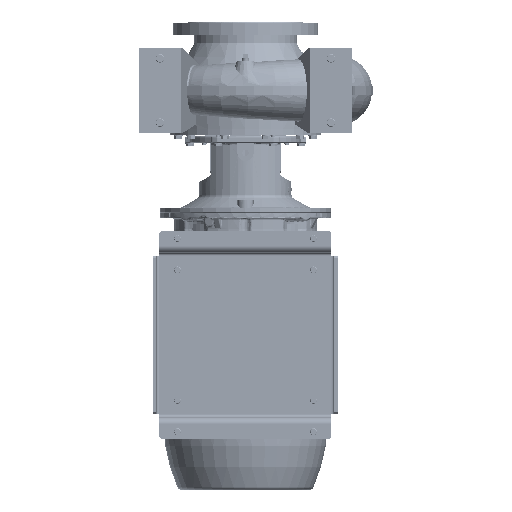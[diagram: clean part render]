
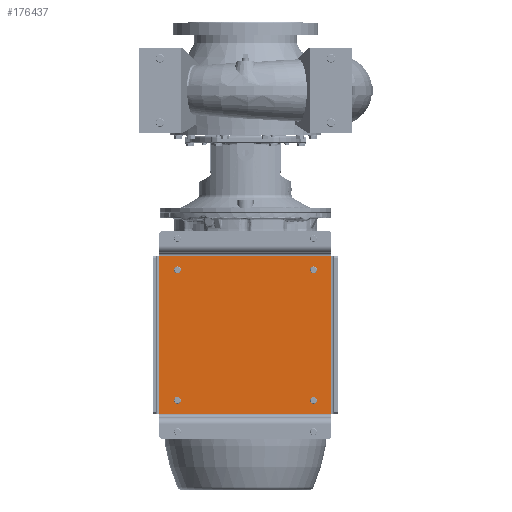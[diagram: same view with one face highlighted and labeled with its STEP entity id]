
A CAD part, front view. The second image highlights one B-rep face of the part: STEP entity #176437.
In plain terms, the highlighted planar face has unit normal (0, -1, 0).
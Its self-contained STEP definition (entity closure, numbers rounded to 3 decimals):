
#500 = VERTEX_POINT ( 'NONE', #146297 ) ;
#4031 = CIRCLE ( 'NONE', #187236, 8. ) ;
#5198 = VERTEX_POINT ( 'NONE', #273974 ) ;
#7053 = FACE_BOUND ( 'NONE', #274932, .T. ) ;
#8460 = DIRECTION ( 'NONE',  ( 0., 0., -1. ) ) ;
#15353 = AXIS2_PLACEMENT_3D ( 'NONE', #134538, #226593, #19801 ) ;
#17415 = VECTOR ( 'NONE', #71395, 1000. ) ;
#19801 = DIRECTION ( 'NONE',  ( 0., 0., -1. ) ) ;
#25271 = FACE_OUTER_BOUND ( 'NONE', #289523, .T. ) ;
#25662 = EDGE_CURVE ( 'NONE', #205653, #109764, #68366, .T. ) ;
#25719 = DIRECTION ( 'NONE',  ( 0., 0., -1. ) ) ;
#27328 = VECTOR ( 'NONE', #79196, 1000. ) ;
#27929 = LINE ( 'NONE', #188008, #27328 ) ;
#31117 = EDGE_CURVE ( 'NONE', #229028, #156281, #47560, .T. ) ;
#38588 = DIRECTION ( 'NONE',  ( 0., 0., -1. ) ) ;
#39617 = CARTESIAN_POINT ( 'NONE',  ( 91.5, 71., -58. ) ) ;
#43307 = VERTEX_POINT ( 'NONE', #211348 ) ;
#43632 = VECTOR ( 'NONE', #165282, 1000. ) ;
#43830 = EDGE_CURVE ( 'NONE', #156281, #172566, #165020, .T. ) ;
#47560 = LINE ( 'NONE', #233182, #43632 ) ;
#54526 = EDGE_CURVE ( 'NONE', #172566, #295370, #100653, .T. ) ;
#55267 = DIRECTION ( 'NONE',  ( 0., 1., 0. ) ) ;
#56217 = EDGE_CURVE ( 'NONE', #269859, #5198, #87386, .T. ) ;
#58344 = DIRECTION ( 'NONE',  ( 0., 0., 1. ) ) ;
#67820 = CARTESIAN_POINT ( 'NONE',  ( 396.5, 71., -368. ) ) ;
#68366 = CIRCLE ( 'NONE', #15353, 8. ) ;
#70545 = PLANE ( 'NONE',  #87336 ) ;
#71395 = DIRECTION ( 'NONE',  ( 1., 0., 0. ) ) ;
#71561 = CIRCLE ( 'NONE', #143999, 8. ) ;
#71700 = ORIENTED_EDGE ( 'NONE', *, *, #117328, .T. ) ;
#73585 = CARTESIAN_POINT ( 'NONE',  ( 396.5, 71., -58. ) ) ;
#75072 = DIRECTION ( 'NONE',  ( 0., 0., -1. ) ) ;
#78015 = CARTESIAN_POINT ( 'NONE',  ( 429., 71., -16. ) ) ;
#78737 = CARTESIAN_POINT ( 'NONE',  ( 59., 71., -16. ) ) ;
#79196 = DIRECTION ( 'NONE',  ( -1., 0., 0. ) ) ;
#80657 = ORIENTED_EDGE ( 'NONE', *, *, #157569, .T. ) ;
#86650 = CARTESIAN_POINT ( 'NONE',  ( 91.5, 71., -368. ) ) ;
#87336 = AXIS2_PLACEMENT_3D ( 'NONE', #260684, #232061, #256216 ) ;
#87386 = CIRCLE ( 'NONE', #203128, 8. ) ;
#89084 = CARTESIAN_POINT ( 'NONE',  ( 396.5, 71., -66. ) ) ;
#92219 = CARTESIAN_POINT ( 'NONE',  ( 396.5, 71., -384. ) ) ;
#97587 = CARTESIAN_POINT ( 'NONE',  ( 396.5, 71., -58. ) ) ;
#100653 = LINE ( 'NONE', #78015, #289493 ) ;
#108107 = AXIS2_PLACEMENT_3D ( 'NONE', #221003, #175771, #174302 ) ;
#109764 = VERTEX_POINT ( 'NONE', #92219 ) ;
#116320 = CARTESIAN_POINT ( 'NONE',  ( 91.5, 71., -58. ) ) ;
#116758 = AXIS2_PLACEMENT_3D ( 'NONE', #135425, #162519, #228952 ) ;
#117328 = EDGE_CURVE ( 'NONE', #295370, #229028, #27929, .T. ) ;
#117633 = ORIENTED_EDGE ( 'NONE', *, *, #129475, .T. ) ;
#122983 = ORIENTED_EDGE ( 'NONE', *, *, #135414, .T. ) ;
#123035 = EDGE_CURVE ( 'NONE', #109764, #205653, #4031, .T. ) ;
#129475 = EDGE_CURVE ( 'NONE', #5198, #269859, #213012, .T. ) ;
#134538 = CARTESIAN_POINT ( 'NONE',  ( 396.5, 71., -376. ) ) ;
#135414 = EDGE_CURVE ( 'NONE', #251335, #147527, #281747, .T. ) ;
#135425 = CARTESIAN_POINT ( 'NONE',  ( 91.5, 71., -376. ) ) ;
#143302 = EDGE_LOOP ( 'NONE', ( #117633, #240277 ) ) ;
#143999 = AXIS2_PLACEMENT_3D ( 'NONE', #39617, #177005, #269043 ) ;
#144485 = FACE_BOUND ( 'NONE', #143302, .T. ) ;
#146297 = CARTESIAN_POINT ( 'NONE',  ( 91.5, 71., -50. ) ) ;
#146813 = ORIENTED_EDGE ( 'NONE', *, *, #54526, .T. ) ;
#147527 = VERTEX_POINT ( 'NONE', #86650 ) ;
#154038 = CARTESIAN_POINT ( 'NONE',  ( 429., 71., -16. ) ) ;
#156281 = VERTEX_POINT ( 'NONE', #279749 ) ;
#157569 = EDGE_CURVE ( 'NONE', #500, #43307, #71561, .T. ) ;
#160615 = ORIENTED_EDGE ( 'NONE', *, *, #123035, .T. ) ;
#161237 = DIRECTION ( 'NONE',  ( 0., 1., 0. ) ) ;
#162519 = DIRECTION ( 'NONE',  ( 0., 1., 0. ) ) ;
#165020 = LINE ( 'NONE', #278209, #17415 ) ;
#165282 = DIRECTION ( 'NONE',  ( 0., 0., -1. ) ) ;
#165483 = ORIENTED_EDGE ( 'NONE', *, *, #264438, .T. ) ;
#170905 = EDGE_CURVE ( 'NONE', #43307, #500, #190270, .T. ) ;
#172566 = VERTEX_POINT ( 'NONE', #215248 ) ;
#174302 = DIRECTION ( 'NONE',  ( 0., 0., -1. ) ) ;
#174517 = CARTESIAN_POINT ( 'NONE',  ( 396.5, 71., -376. ) ) ;
#175771 = DIRECTION ( 'NONE',  ( 0., 1., 0. ) ) ;
#176437 = ADVANCED_FACE ( 'NONE', ( #25271, #7053, #188313, #186815, #144485 ), #70545, .T. ) ;
#177005 = DIRECTION ( 'NONE',  ( 0., 1., 0. ) ) ;
#186815 = FACE_BOUND ( 'NONE', #252433, .T. ) ;
#187236 = AXIS2_PLACEMENT_3D ( 'NONE', #174517, #248357, #38588 ) ;
#187279 = DIRECTION ( 'NONE',  ( 0., 1., 0. ) ) ;
#188008 = CARTESIAN_POINT ( 'NONE',  ( 59., 71., -16. ) ) ;
#188313 = FACE_BOUND ( 'NONE', #223839, .T. ) ;
#190270 = CIRCLE ( 'NONE', #286773, 8. ) ;
#201677 = ORIENTED_EDGE ( 'NONE', *, *, #25662, .T. ) ;
#203128 = AXIS2_PLACEMENT_3D ( 'NONE', #73585, #161237, #75072 ) ;
#205653 = VERTEX_POINT ( 'NONE', #67820 ) ;
#211348 = CARTESIAN_POINT ( 'NONE',  ( 91.5, 71., -66. ) ) ;
#212225 = ORIENTED_EDGE ( 'NONE', *, *, #31117, .T. ) ;
#213012 = CIRCLE ( 'NONE', #280490, 8. ) ;
#215248 = CARTESIAN_POINT ( 'NONE',  ( 429., 71., -418. ) ) ;
#221003 = CARTESIAN_POINT ( 'NONE',  ( 91.5, 71., -376. ) ) ;
#222763 = CIRCLE ( 'NONE', #116758, 8. ) ;
#223839 = EDGE_LOOP ( 'NONE', ( #201677, #160615 ) ) ;
#226593 = DIRECTION ( 'NONE',  ( 0., 1., 0. ) ) ;
#228952 = DIRECTION ( 'NONE',  ( 0., 0., -1. ) ) ;
#229028 = VERTEX_POINT ( 'NONE', #78737 ) ;
#232061 = DIRECTION ( 'NONE',  ( 0., -1., 0. ) ) ;
#233182 = CARTESIAN_POINT ( 'NONE',  ( 59., 71., -418. ) ) ;
#236508 = ORIENTED_EDGE ( 'NONE', *, *, #43830, .T. ) ;
#240277 = ORIENTED_EDGE ( 'NONE', *, *, #56217, .T. ) ;
#248357 = DIRECTION ( 'NONE',  ( 0., 1., 0. ) ) ;
#251335 = VERTEX_POINT ( 'NONE', #263458 ) ;
#252433 = EDGE_LOOP ( 'NONE', ( #165483, #122983 ) ) ;
#256216 = DIRECTION ( 'NONE',  ( 0., 0., -1. ) ) ;
#260241 = ORIENTED_EDGE ( 'NONE', *, *, #170905, .T. ) ;
#260684 = CARTESIAN_POINT ( 'NONE',  ( 0., 71., 0. ) ) ;
#263458 = CARTESIAN_POINT ( 'NONE',  ( 91.5, 71., -384. ) ) ;
#264438 = EDGE_CURVE ( 'NONE', #147527, #251335, #222763, .T. ) ;
#269043 = DIRECTION ( 'NONE',  ( 0., 0., -1. ) ) ;
#269859 = VERTEX_POINT ( 'NONE', #89084 ) ;
#273974 = CARTESIAN_POINT ( 'NONE',  ( 396.5, 71., -50. ) ) ;
#274932 = EDGE_LOOP ( 'NONE', ( #80657, #260241 ) ) ;
#278209 = CARTESIAN_POINT ( 'NONE',  ( 429., 71., -418. ) ) ;
#279749 = CARTESIAN_POINT ( 'NONE',  ( 59., 71., -418. ) ) ;
#280490 = AXIS2_PLACEMENT_3D ( 'NONE', #97587, #55267, #8460 ) ;
#281747 = CIRCLE ( 'NONE', #108107, 8. ) ;
#286773 = AXIS2_PLACEMENT_3D ( 'NONE', #116320, #187279, #25719 ) ;
#289493 = VECTOR ( 'NONE', #58344, 1000. ) ;
#289523 = EDGE_LOOP ( 'NONE', ( #71700, #212225, #236508, #146813 ) ) ;
#295370 = VERTEX_POINT ( 'NONE', #154038 ) ;
